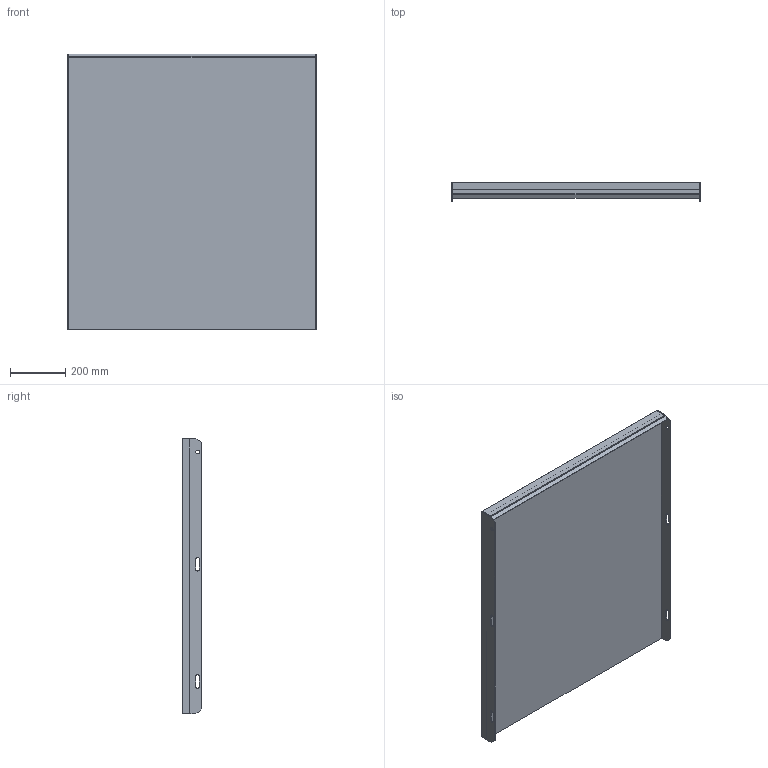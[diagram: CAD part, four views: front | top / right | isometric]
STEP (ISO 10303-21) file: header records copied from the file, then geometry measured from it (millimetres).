
FILE_DESCRIPTION (( 'STEP AP203' ), '1' );
FILE_NAME ('148809101, Plan TH6, 900x1000, vfz.STEP', '2020-10-21T13:34:53', ( '' ), ( '' ), 'SwSTEP 2.0', 'SolidWorks 2019', '' );
FILE_SCHEMA (( 'CONFIG_CONTROL_DESIGN' ));
Length unit declared in the file: millimetre
Products named in the file (4): SW0000041835; SW0000041483; 148809101, Plan TH6, 900x1000, vfz; SW0000041407
Assembly tree (4 placements, depth 2):
  148809101, Plan TH6, 900x1000, vfz
    SW0000041835
    SW0000041407  x2
    SW0000041483
Bounding box: 900 x 70 x 997 mm (x, y, z)
Volume: 22782607.8 mm3; surface area: 2271233.4 mm2
Topology: 4 solids, 4 shells, 69 faces, 172 edges, 112 vertices
Faces by surface type: plane 49, cylinder 20
Entity records: 1868 total; most frequent: DIRECTION 252, CARTESIAN_POINT 250, ORIENTED_EDGE 236, EDGE_CURVE 118, LINE 96, VECTOR 96, AXIS2_PLACEMENT_3D 78, VERTEX_POINT 76
